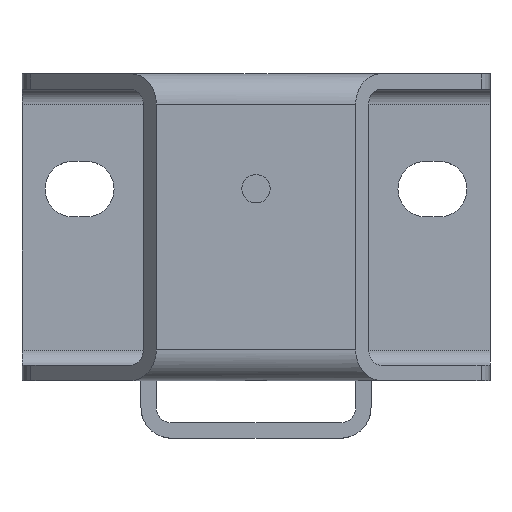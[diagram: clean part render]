
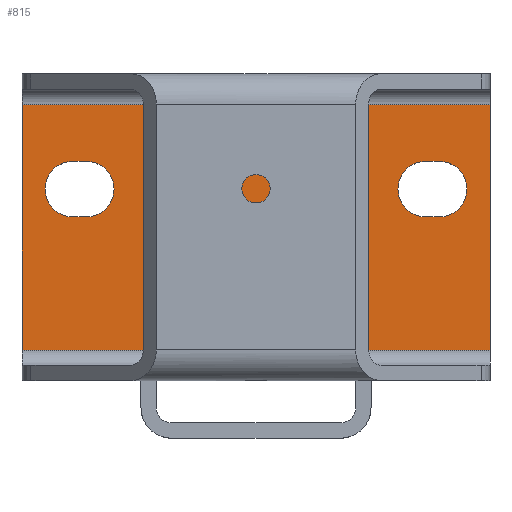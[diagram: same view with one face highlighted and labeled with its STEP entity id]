
A CAD part, top view. The second image highlights one B-rep face of the part: STEP entity #815.
In plain terms, the highlighted planar face has unit normal (0, 0, 1).
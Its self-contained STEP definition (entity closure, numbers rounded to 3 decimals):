
#583=CARTESIAN_POINT('',(61.,32.,-26.));
#584=VERTEX_POINT('',#583);
#592=CARTESIAN_POINT('',(61.,-32.0,-26.));
#593=VERTEX_POINT('',#592);
#594=CARTESIAN_POINT('',(61.,32.,-26.));
#595=DIRECTION('',(0.0,-1.0,0.0));
#596=VECTOR('',#595,64.0);
#597=LINE('',#594,#596);
#598=EDGE_CURVE('',#584,#593,#597,.T.);
#713=CARTESIAN_POINT('',(0.0,32.,-26.));
#714=DIRECTION('',(0.0,0.0,-1.0));
#715=DIRECTION('',(-1.0,0.0,0.0));
#716=AXIS2_PLACEMENT_3D('',#713,#714,#715);
#717=PLANE('',#716);
#718=ORIENTED_EDGE('',*,*,#598,.F.);
#719=CARTESIAN_POINT('',(-61.,32.,-26.));
#720=VERTEX_POINT('',#719);
#721=CARTESIAN_POINT('',(-61.,32.,-26.));
#722=DIRECTION('',(1.0,0.0,0.0));
#723=VECTOR('',#722,122.);
#724=LINE('',#721,#723);
#725=EDGE_CURVE('',#720,#584,#724,.T.);
#726=ORIENTED_EDGE('',*,*,#725,.F.);
#727=CARTESIAN_POINT('',(-61.,-32.0,-26.));
#728=VERTEX_POINT('',#727);
#729=CARTESIAN_POINT('',(-61.,-32.0,-26.0));
#730=DIRECTION('',(0.0,1.0,0.0));
#731=VECTOR('',#730,64.0);
#732=LINE('',#729,#731);
#733=EDGE_CURVE('',#728,#720,#732,.T.);
#734=ORIENTED_EDGE('',*,*,#733,.F.);
#735=CARTESIAN_POINT('',(-61.,-32.0,-26.));
#736=DIRECTION('',(1.0,0.0,0.0));
#737=VECTOR('',#736,122.);
#738=LINE('',#735,#737);
#739=EDGE_CURVE('',#728,#593,#738,.T.);
#740=ORIENTED_EDGE('',*,*,#739,.T.);
#741=EDGE_LOOP('',(#718,#726,#734,#740));
#742=FACE_OUTER_BOUND('',#741,.T.);
#743=CARTESIAN_POINT('',(-47.75,2.75,-26.0));
#744=VERTEX_POINT('',#743);
#745=CARTESIAN_POINT('',(-47.75,17.25,-26.));
#746=VERTEX_POINT('',#745);
#747=CARTESIAN_POINT('',(-47.75,10.,-26.));
#748=DIRECTION('',(0.0,0.0,-1.0));
#749=DIRECTION('',(0.0,-1.0,0.0));
#750=AXIS2_PLACEMENT_3D('',#747,#748,#749);
#751=CIRCLE('',#750,7.25);
#752=EDGE_CURVE('',#744,#746,#751,.T.);
#753=ORIENTED_EDGE('',*,*,#752,.T.);
#754=CARTESIAN_POINT('',(-44.25,17.25,-26.));
#755=VERTEX_POINT('',#754);
#756=CARTESIAN_POINT('',(-47.75,17.25,-26.));
#757=DIRECTION('',(1.0,0.0,0.0));
#758=VECTOR('',#757,3.5);
#759=LINE('',#756,#758);
#760=EDGE_CURVE('',#746,#755,#759,.T.);
#761=ORIENTED_EDGE('',*,*,#760,.T.);
#762=CARTESIAN_POINT('',(-44.25,2.75,-26.0));
#763=VERTEX_POINT('',#762);
#764=CARTESIAN_POINT('',(-44.25,10.0,-26.));
#765=DIRECTION('',(0.0,0.0,-1.0));
#766=DIRECTION('',(0.0,1.0,0.0));
#767=AXIS2_PLACEMENT_3D('',#764,#765,#766);
#768=CIRCLE('',#767,7.25);
#769=EDGE_CURVE('',#755,#763,#768,.T.);
#770=ORIENTED_EDGE('',*,*,#769,.T.);
#771=CARTESIAN_POINT('',(-44.25,2.75,-26.0));
#772=DIRECTION('',(-1.0,0.0,0.0));
#773=VECTOR('',#772,3.5);
#774=LINE('',#771,#773);
#775=EDGE_CURVE('',#763,#744,#774,.T.);
#776=ORIENTED_EDGE('',*,*,#775,.T.);
#777=EDGE_LOOP('',(#753,#761,#770,#776));
#778=FACE_BOUND('',#777,.T.);
#779=CARTESIAN_POINT('',(44.25,2.75,-26.0));
#780=VERTEX_POINT('',#779);
#781=CARTESIAN_POINT('',(44.25,17.25,-26.));
#782=VERTEX_POINT('',#781);
#783=CARTESIAN_POINT('',(44.25,10.0,-26.));
#784=DIRECTION('',(0.0,0.0,-1.0));
#785=DIRECTION('',(0.0,1.0,0.0));
#786=AXIS2_PLACEMENT_3D('',#783,#784,#785);
#787=CIRCLE('',#786,7.25);
#788=EDGE_CURVE('',#780,#782,#787,.T.);
#789=ORIENTED_EDGE('',*,*,#788,.T.);
#790=CARTESIAN_POINT('',(47.75,17.25,-26.));
#791=VERTEX_POINT('',#790);
#792=CARTESIAN_POINT('',(44.25,17.25,-26.));
#793=DIRECTION('',(1.0,0.0,0.0));
#794=VECTOR('',#793,3.5);
#795=LINE('',#792,#794);
#796=EDGE_CURVE('',#782,#791,#795,.T.);
#797=ORIENTED_EDGE('',*,*,#796,.T.);
#798=CARTESIAN_POINT('',(47.75,2.75,-26.0));
#799=VERTEX_POINT('',#798);
#800=CARTESIAN_POINT('',(47.75,10.,-26.));
#801=DIRECTION('',(0.0,0.0,-1.0));
#802=DIRECTION('',(0.0,-1.0,0.0));
#803=AXIS2_PLACEMENT_3D('',#800,#801,#802);
#804=CIRCLE('',#803,7.25);
#805=EDGE_CURVE('',#791,#799,#804,.T.);
#806=ORIENTED_EDGE('',*,*,#805,.T.);
#807=CARTESIAN_POINT('',(47.75,2.75,-26.0));
#808=DIRECTION('',(-1.0,0.0,0.0));
#809=VECTOR('',#808,3.5);
#810=LINE('',#807,#809);
#811=EDGE_CURVE('',#799,#780,#810,.T.);
#812=ORIENTED_EDGE('',*,*,#811,.T.);
#813=EDGE_LOOP('',(#789,#797,#806,#812));
#814=FACE_BOUND('',#813,.T.);
#815=ADVANCED_FACE('',(#742,#778,#814),#717,.F.);
